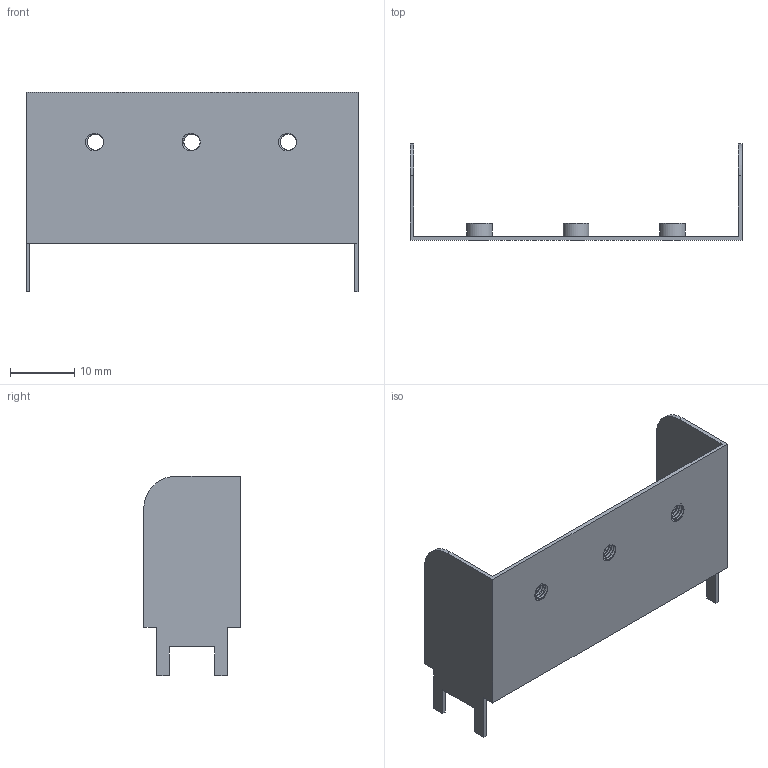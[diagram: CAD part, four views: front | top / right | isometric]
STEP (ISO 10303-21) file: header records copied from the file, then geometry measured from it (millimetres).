
FILE_DESCRIPTION(/* description */ ('','CAx-IF Rec.Pracs.---Representation and Presentation of Product Manufacturing Information (PMI)---4.0---2014-10-13'),/* implementation_level */ '2;1');
FILE_NAME(/* name */ 'TypeC-1-0.6.step',/* time_stamp */ '2025-01-27T02:26:54+09:00',/* author */ (''),/* organization */ (''),/* preprocessor_version */ 'ST-DEVELOPER v20',/* originating_system */ 'Autodesk Translation Framework v13.20.0.188',/* authorisation */ '');
FILE_SCHEMA (('AP242_MANAGED_MODEL_BASED_3D_ENGINEERING_MIM_LF { 1 0 10303 442 1 1 4 }'));
Length unit declared in the file: millimetre
Products named in the file (1): (未保存)
Bounding box: 51.6 x 15 x 31 mm (x, y, z)
Volume: 1217.1 mm3; surface area: 4263.5 mm2
Topology: 1 solids, 1 shells, 82 faces, 231 edges, 154 vertices
Faces by surface type: cylinder 41, plane 29, bspline 12
Full cylindrical faces by diameter (mm): 2.529 x9, 3.086 x6, 4 x3
Entity records: 5926 total; most frequent: CARTESIAN_POINT 3972, ORIENTED_EDGE 462, DIRECTION 293, EDGE_CURVE 231, VERTEX_POINT 154, LINE 107, VECTOR 107, B_SPLINE_CURVE_WITH_KNOTS 102
